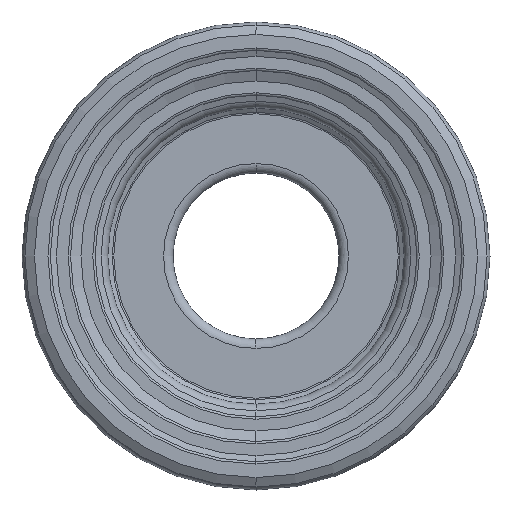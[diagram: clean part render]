
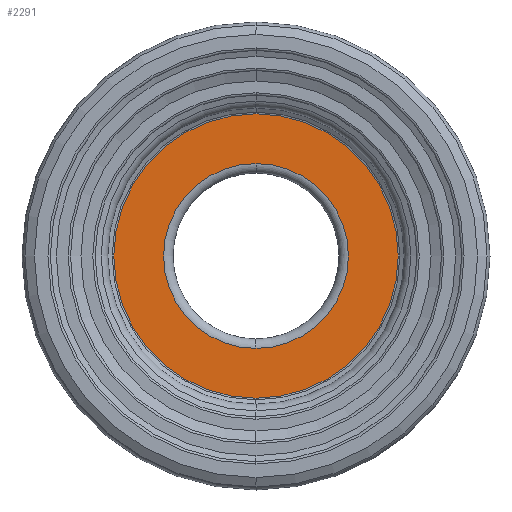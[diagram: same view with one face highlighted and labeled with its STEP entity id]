
A CAD part, front view. The second image highlights one B-rep face of the part: STEP entity #2291.
In plain terms, the highlighted planar face has unit normal (0, -1, 0).
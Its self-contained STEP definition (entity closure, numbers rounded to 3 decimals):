
#45 = FACE_OUTER_BOUND ( 'NONE', #2600, .T. ) ;
#127 = CARTESIAN_POINT ( 'NONE',  ( 0., -2., 7.8 ) ) ;
#146 = EDGE_CURVE ( 'NONE', #1864, #2970, #2052, .T. ) ;
#154 = DIRECTION ( 'NONE',  ( 0., 0., -1. ) ) ;
#181 = DIRECTION ( 'NONE',  ( 0., 0., -1. ) ) ;
#197 = EDGE_CURVE ( 'NONE', #842, #997, #1058, .T. ) ;
#222 = CARTESIAN_POINT ( 'NONE',  ( 0., -2., -7.8 ) ) ;
#299 = ORIENTED_EDGE ( 'NONE', *, *, #1930, .T. ) ;
#314 = CARTESIAN_POINT ( 'NONE',  ( 0., -2., -12. ) ) ;
#336 = AXIS2_PLACEMENT_3D ( 'NONE', #1358, #1342, #181 ) ;
#375 = CARTESIAN_POINT ( 'NONE',  ( 0., -2., 0. ) ) ;
#587 = DIRECTION ( 'NONE',  ( 0., 1., 0. ) ) ;
#593 = DIRECTION ( 'NONE',  ( 0., 0., -1. ) ) ;
#809 = AXIS2_PLACEMENT_3D ( 'NONE', #1307, #2237, #593 ) ;
#842 = VERTEX_POINT ( 'NONE', #1709 ) ;
#849 = CARTESIAN_POINT ( 'NONE',  ( 0., -2., 0. ) ) ;
#997 = VERTEX_POINT ( 'NONE', #314 ) ;
#1058 = CIRCLE ( 'NONE', #1663, 12. ) ;
#1225 = DIRECTION ( 'NONE',  ( 0., 1., 0. ) ) ;
#1307 = CARTESIAN_POINT ( 'NONE',  ( -7., -2., 0. ) ) ;
#1342 = DIRECTION ( 'NONE',  ( 0., 1., 0. ) ) ;
#1358 = CARTESIAN_POINT ( 'NONE',  ( 0., -2., 0. ) ) ;
#1421 = DIRECTION ( 'NONE',  ( 0., 0., 1. ) ) ;
#1663 = AXIS2_PLACEMENT_3D ( 'NONE', #849, #2928, #2492 ) ;
#1709 = CARTESIAN_POINT ( 'NONE',  ( 0., -2., 12. ) ) ;
#1807 = FACE_BOUND ( 'NONE', #2172, .T. ) ;
#1864 = VERTEX_POINT ( 'NONE', #127 ) ;
#1930 = EDGE_CURVE ( 'NONE', #2970, #1864, #2501, .T. ) ;
#2050 = EDGE_CURVE ( 'NONE', #997, #842, #2979, .T. ) ;
#2052 = CIRCLE ( 'NONE', #2969, 7.8 ) ;
#2092 = ORIENTED_EDGE ( 'NONE', *, *, #2050, .F. ) ;
#2147 = CARTESIAN_POINT ( 'NONE',  ( 0., -2., 0. ) ) ;
#2172 = EDGE_LOOP ( 'NONE', ( #299, #2612 ) ) ;
#2237 = DIRECTION ( 'NONE',  ( 0., -1., 0. ) ) ;
#2291 = ADVANCED_FACE ( 'NONE', ( #1807, #45 ), #2690, .T. ) ;
#2492 = DIRECTION ( 'NONE',  ( 0., 0., 1. ) ) ;
#2501 = CIRCLE ( 'NONE', #336, 7.8 ) ;
#2600 = EDGE_LOOP ( 'NONE', ( #2607, #2092 ) ) ;
#2607 = ORIENTED_EDGE ( 'NONE', *, *, #197, .F. ) ;
#2612 = ORIENTED_EDGE ( 'NONE', *, *, #146, .T. ) ;
#2690 = PLANE ( 'NONE',  #809 ) ;
#2865 = AXIS2_PLACEMENT_3D ( 'NONE', #2147, #1225, #1421 ) ;
#2928 = DIRECTION ( 'NONE',  ( 0., 1., 0. ) ) ;
#2969 = AXIS2_PLACEMENT_3D ( 'NONE', #375, #587, #154 ) ;
#2970 = VERTEX_POINT ( 'NONE', #222 ) ;
#2979 = CIRCLE ( 'NONE', #2865, 12. ) ;
